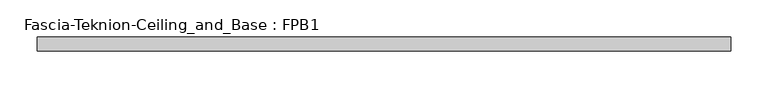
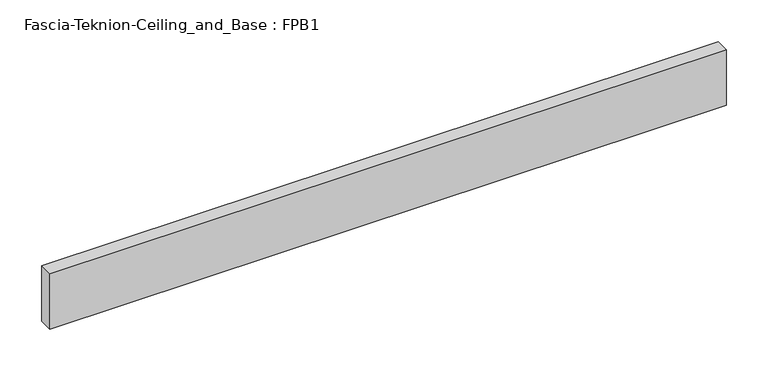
"""IFC4 building model written with IfcOpenShell, lengths in millimetres: proxy geometry, Fascia-Teknion-Ceiling_and_Base : FPB1."""

from ifc_helpers import new_model, si_unit, origin, origin_with_axes, place, context, project, spatial, polyline, outline, extrude, source, transform, mapped, element, save


def fascia_teknion_ceiling_and_base_fpb1_d1f135fe(model_context):
    return source(origin(), model_context, "Body", "SweptSolid", [
        extrude(outline(polyline([(467.9900391, 0.0), (-467.9900391, 0.0), (-467.9900391, 19.05), (467.9900391, 19.05), (467.9900391, 0.0)])), origin_with_axes(), (0.0, 0.0, 1.0), 81.28),
    ])


if __name__ == "__main__":
    model = new_model("IFC4")
    model_context = context("Model", 3, world=origin())
    ifc_project = project(units=[si_unit("LENGTHUNIT", "METRE", prefix="MILLI")], contexts=[model_context])
    site = spatial("IfcSite", under=ifc_project)
    building = spatial("IfcBuilding", under=site)
    placement = place(None, origin())
    fascia_teknion_ceiling_and_base_fpb1_shape = fascia_teknion_ceiling_and_base_fpb1_d1f135fe(model_context)
    element("IfcBuildingElementProxy", 1, Name="Fascia-Teknion-Ceiling_and_Base : FPB1", ObjectType="Fascia-Teknion-Ceiling_and_Base : FPB1", at=placement, inside=building, context=model_context, shape_type="MappedRepresentation", body=[
        mapped(fascia_teknion_ceiling_and_base_fpb1_shape, transform((0.0, 0.0, 0.0), x_axis=(1.0, 0.0, 0.0), y_axis=(0.0, 1.0, 0.0), z_axis=(0.0, 0.0, 1.0))),
    ])
    save(model, "model.ifc")
